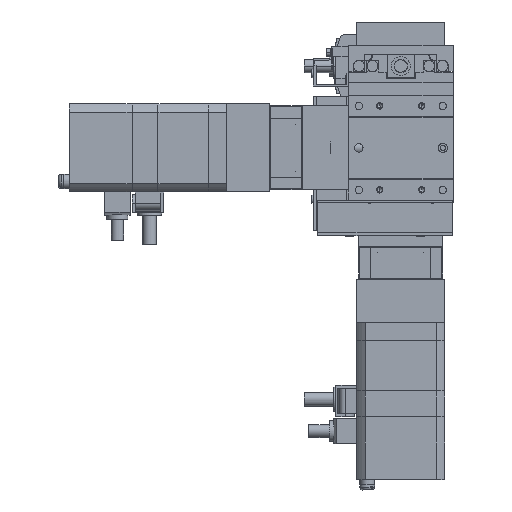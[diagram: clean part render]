
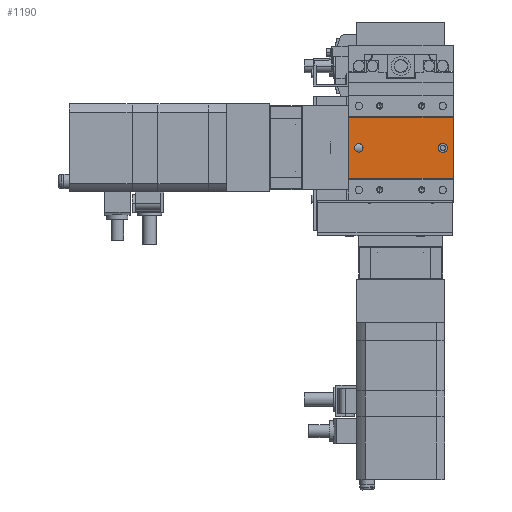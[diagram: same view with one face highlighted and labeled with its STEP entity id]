
A CAD part, front view. The second image highlights one B-rep face of the part: STEP entity #1190.
In plain terms, the highlighted planar face has unit normal (0, -1, 0).
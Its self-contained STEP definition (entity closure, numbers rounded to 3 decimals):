
#1190=ADVANCED_FACE('',(#3506,#3507,#3508),#3509,.F.);
#3506=FACE_BOUND('',#7875,.T.);
#3507=FACE_OUTER_BOUND('',#7876,.T.);
#3508=FACE_BOUND('',#7877,.T.);
#3509=PLANE('',#7878);
#7875=EDGE_LOOP('',(#13713,#13714,#13715,#13716));
#7876=EDGE_LOOP('',(#13717,#13718,#13719,#13720));
#7877=EDGE_LOOP('',(#13721,#13722,#13723));
#7878=AXIS2_PLACEMENT_3D('',#13724,#13725,#13726);
#13713=ORIENTED_EDGE('',*,*,#28602,.F.);
#13714=ORIENTED_EDGE('',*,*,#28603,.F.);
#13715=ORIENTED_EDGE('',*,*,#28604,.F.);
#13716=ORIENTED_EDGE('',*,*,#28605,.F.);
#13717=ORIENTED_EDGE('',*,*,#28587,.T.);
#13718=ORIENTED_EDGE('',*,*,#28606,.F.);
#13719=ORIENTED_EDGE('',*,*,#28607,.F.);
#13720=ORIENTED_EDGE('',*,*,#28608,.T.);
#13721=ORIENTED_EDGE('',*,*,#28492,.F.);
#13722=ORIENTED_EDGE('',*,*,#28491,.F.);
#13723=ORIENTED_EDGE('',*,*,#28609,.F.);
#13724=CARTESIAN_POINT('',(-25.,0.35,-14.65));
#13725=DIRECTION('',(0.,1.0,0.));
#13726=DIRECTION('',(-1.0,0.,0.));
#28491=EDGE_CURVE('',#33914,#33916,#33917,.F.);
#28492=EDGE_CURVE('',#33916,#33910,#33918,.F.);
#28587=EDGE_CURVE('',#34095,#34093,#34096,.T.);
#28602=EDGE_CURVE('',#34123,#34124,#34125,.F.);
#28603=EDGE_CURVE('',#34126,#34123,#34127,.T.);
#28604=EDGE_CURVE('',#34128,#34126,#34129,.F.);
#28605=EDGE_CURVE('',#34124,#34128,#34130,.T.);
#28606=EDGE_CURVE('',#34131,#34093,#34132,.T.);
#28607=EDGE_CURVE('',#34133,#34131,#34134,.T.);
#28608=EDGE_CURVE('',#34133,#34095,#34135,.T.);
#28609=EDGE_CURVE('',#33910,#33914,#34136,.F.);
#33910=VERTEX_POINT('',#42561);
#33914=VERTEX_POINT('',#42566);
#33916=VERTEX_POINT('',#42569);
#33917=CIRCLE('',#42570,2.0);
#33918=CIRCLE('',#42571,2.0);
#34093=VERTEX_POINT('',#42800);
#34095=VERTEX_POINT('',#42803);
#34096=LINE('',#42804,#42805);
#34123=VERTEX_POINT('',#42845);
#34124=VERTEX_POINT('',#42846);
#34125=CIRCLE('',#42847,2.0);
#34126=VERTEX_POINT('',#42848);
#34127=LINE('',#42849,#42850);
#34128=VERTEX_POINT('',#42851);
#34129=CIRCLE('',#42852,2.0);
#34130=LINE('',#42853,#42854);
#34131=VERTEX_POINT('',#42855);
#34132=LINE('',#42856,#42857);
#34133=VERTEX_POINT('',#42858);
#34134=LINE('',#42859,#42860);
#34135=LINE('',#42861,#42862);
#34136=CIRCLE('',#42863,2.0);
#42561=CARTESIAN_POINT('',(-18.0,0.35,0.));
#42566=CARTESIAN_POINT('',(-22.0,0.35,0.));
#42569=CARTESIAN_POINT('',(-20.,0.35,-2.));
#42570=AXIS2_PLACEMENT_3D('',#54059,#54060,#54061);
#42571=AXIS2_PLACEMENT_3D('',#54062,#54063,#54064);
#42800=CARTESIAN_POINT('',(25.,0.35,14.65));
#42803=CARTESIAN_POINT('',(25.,0.35,-14.65));
#42804=CARTESIAN_POINT('',(25.,0.35,-14.65));
#42805=VECTOR('',#54237,1000.0);
#42845=CARTESIAN_POINT('',(20.25,0.35,-2.));
#42846=CARTESIAN_POINT('',(20.25,0.35,2.));
#42847=AXIS2_PLACEMENT_3D('',#54254,#54255,#54256);
#42848=CARTESIAN_POINT('',(19.75,0.35,-2.));
#42849=CARTESIAN_POINT('',(-25.,0.35,-2.));
#42850=VECTOR('',#54257,1000.0);
#42851=CARTESIAN_POINT('',(19.75,0.35,2.));
#42852=AXIS2_PLACEMENT_3D('',#54258,#54259,#54260);
#42853=CARTESIAN_POINT('',(-25.,0.35,2.));
#42854=VECTOR('',#54261,1000.0);
#42855=CARTESIAN_POINT('',(-25.,0.35,14.65));
#42856=CARTESIAN_POINT('',(-25.,0.35,14.65));
#42857=VECTOR('',#54262,1000.0);
#42858=CARTESIAN_POINT('',(-25.,0.35,-14.65));
#42859=CARTESIAN_POINT('',(-25.,0.35,-14.65));
#42860=VECTOR('',#54263,1000.0);
#42861=CARTESIAN_POINT('',(-25.,0.35,-14.65));
#42862=VECTOR('',#54264,1000.0);
#42863=AXIS2_PLACEMENT_3D('',#54265,#54266,#54267);
#54059=CARTESIAN_POINT('',(-20.0,0.35,0.));
#54060=DIRECTION('',(0.,1.0,0.));
#54061=DIRECTION('',(0.,0.,-1.0));
#54062=CARTESIAN_POINT('',(-20.0,0.35,0.));
#54063=DIRECTION('',(0.,1.0,0.));
#54064=DIRECTION('',(0.,0.,-1.0));
#54237=DIRECTION('',(0.,0.,1.0));
#54254=CARTESIAN_POINT('',(20.25,0.35,0.));
#54255=DIRECTION('',(0.,1.0,0.));
#54256=DIRECTION('',(0.,0.,-1.0));
#54257=DIRECTION('',(1.0,0.,0.));
#54258=CARTESIAN_POINT('',(19.75,0.35,0.));
#54259=DIRECTION('',(0.,1.0,0.));
#54260=DIRECTION('',(0.,0.,-1.0));
#54261=DIRECTION('',(-1.0,0.,0.));
#54262=DIRECTION('',(1.0,0.,0.));
#54263=DIRECTION('',(0.,0.,1.0));
#54264=DIRECTION('',(1.0,0.,0.));
#54265=CARTESIAN_POINT('',(-20.0,0.35,0.));
#54266=DIRECTION('',(0.,1.0,0.));
#54267=DIRECTION('',(0.,0.,-1.0));
